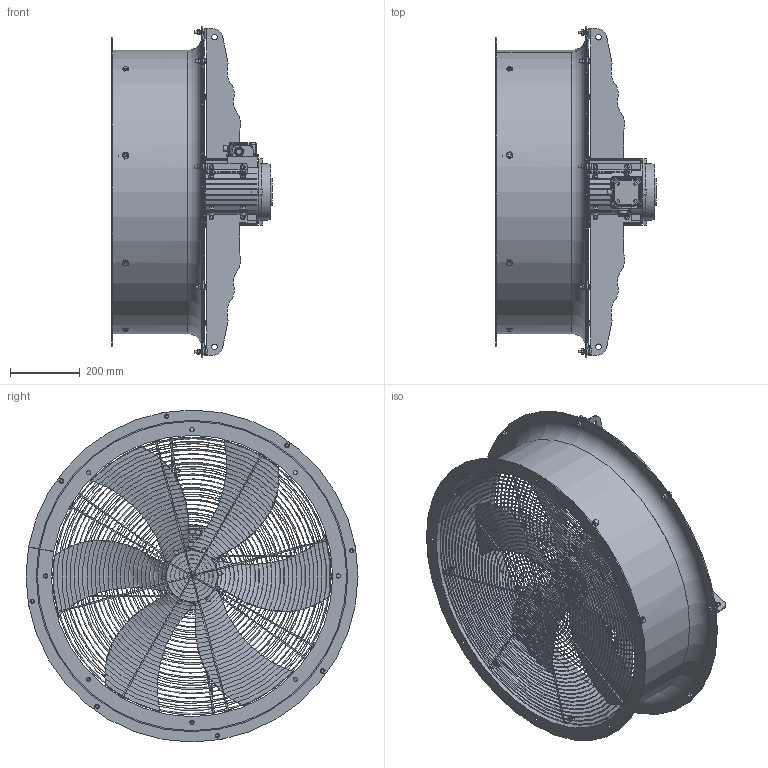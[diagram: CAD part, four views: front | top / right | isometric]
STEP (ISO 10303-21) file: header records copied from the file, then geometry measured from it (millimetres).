
FILE_DESCRIPTION (( 'STEP AP203' ), '1' );
FILE_NAME ('20.16998 VAAZ C 800 M100 B30.STEP', '2020-12-08T09:13:49', ( '' ), ( '' ), 'SwSTEP 2.0', 'SolidWorks 2020', '' );
FILE_SCHEMA (( 'CONFIG_CONTROL_DESIGN' ));
Length unit declared in the file: millimetre
Products named in the file (11): Vijèani spoj M8 sa imbus gl niska; Vijèani spoj M8x30; 20.16998 VAAZ C 800 M100 B30; 141424 rev A Zašt rešetka usisna VAAZ C 800 M100; 140265_rev6_Nosaè VAAZ C 800 M100; 147059 Kuæ VAAZ C 800; 121167 revA Zašt reš ispušna VAAZ C 800 ; Vijèani spoj M6x16; 5AZ 100 B30 BVK SS; Impeler pojednostavljeno; Vijèani spoj M8x25
Assembly tree (41 placements, depth 2):
  20.16998 VAAZ C 800 M100 B30
    147059 Kuæ VAAZ C 800
    5AZ 100 B30 BVK SS
    141424 rev A Zašt rešetka usisna VAAZ C 800 M100
    121167 revA Zašt reš ispušna VAAZ C 800 
    140265_rev6_Nosaè VAAZ C 800 M100  x4
    Vijèani spoj M8 sa imbus gl niska  x16
    Vijèani spoj M8x30  x4
    Vijèani spoj M8x25  x4
    Vijèani spoj M6x16  x8
    Impeler pojednostavljeno
Bounding box: 459 x 950 x 950 mm (x, y, z)
Volume: 6944194.5 mm3; surface area: 4158278.1 mm2
Topology: 177 solids, 180 shells, 2093 faces, 4870 edges, 3156 vertices
Faces by surface type: plane 1263, cylinder 613, torus 100, bspline 78, cone 31, sphere 8
Full cylindrical faces by diameter (mm): 4 x16, 5.5 x4, 6 x32, 7 x8, 8 x80, 8.5 x1, 9 x8, 10 x30, 10.5 x1, 11.5 x8, 12 x50, 13 x16, 16 x5, 17 x1, 18 x8, 18.5 x2, 25 x3, 26.4 x1, 28 x1, 32 x1, 36 x2, 50 x1, 57 x1, 69.286 x2, 85.6 x2, 148 x1, 151.5 x1, 152 x1, 164 x3
Entity records: 40619 total; most frequent: CARTESIAN_POINT 12017, DIRECTION 5503, ORIENTED_EDGE 5124, EDGE_CURVE 2562, AXIS2_PLACEMENT_3D 2042, VERTEX_POINT 1767, EDGE_LOOP 1579, LINE 1419
